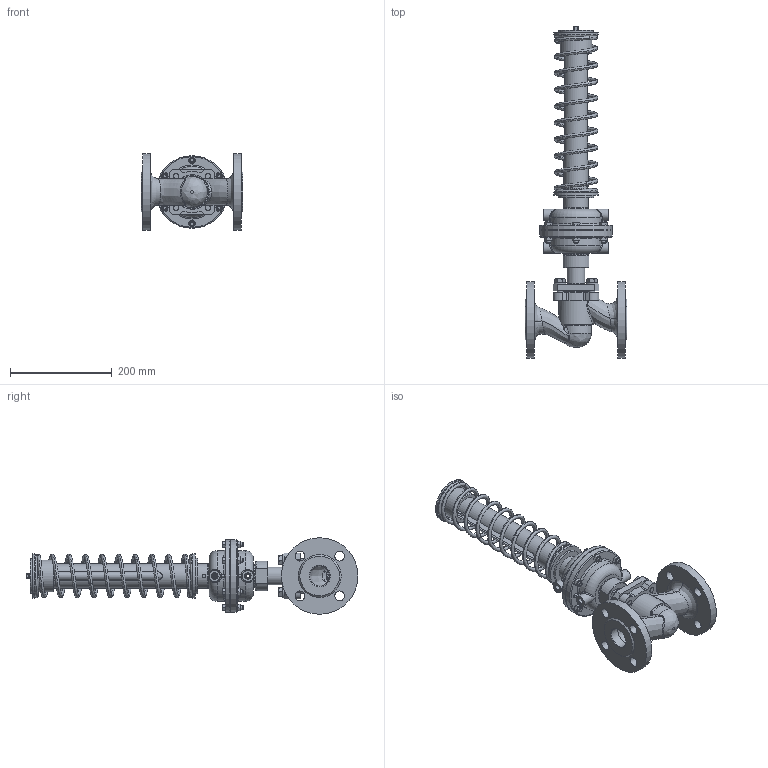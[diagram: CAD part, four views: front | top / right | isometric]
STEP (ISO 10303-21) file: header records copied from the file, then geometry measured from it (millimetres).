
FILE_DESCRIPTION(('STEP AP203'), '1');
FILE_NAME('PA_40-íåðàçáîðíûé.stp', '2017-07-14T08:45:01', ('UNSPECIFIED'), ('UNSPECIFIED'), 'ASCON STEP Converter 1.0', 'Kompas 3D', '');
FILE_SCHEMA(('CONFIG_CONTROL_DESIGN'));
Length unit declared in the file: millimetre
Products named in the file (1): 11
Bounding box: 200 x 651 x 150 mm (x, y, z)
Volume: 1874007.9 mm3; surface area: 525773.8 mm2
Topology: 4 solids, 4 shells, 656 faces, 1524 edges, 947 vertices
Faces by surface type: plane 247, cylinder 169, bspline 107, cone 85, torus 47, sphere 1
Full cylindrical faces by diameter (mm): 2 x1, 4 x1, 6.5 x1, 7 x4, 8 x6, 10 x1, 10.5 x4, 11 x2, 12 x7, 13 x4, 13.7 x1, 14 x5, 14.5 x2, 15 x3, 16 x1, 17 x1, 19 x8, 20 x6, 22 x4, 24 x4, 28 x1, 30 x2, 34 x2, 40 x3, 41 x1, 42 x3, 46 x1, 46.5 x1, 48 x4, 48.5 x1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
Entity records: 50794 total; most frequent: CARTESIAN_POINT 36770, ORIENTED_EDGE 3040, DIRECTION 2558, EDGE_CURVE 1520, AXIS2_PLACEMENT_3D 1021, VERTEX_POINT 947, EDGE_LOOP 783, ADVANCED_FACE 656
